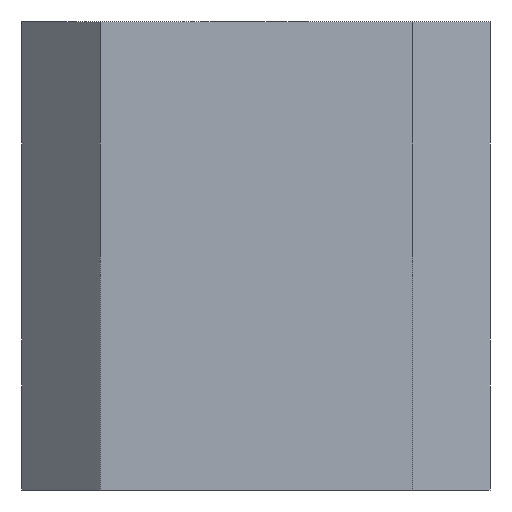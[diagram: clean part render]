
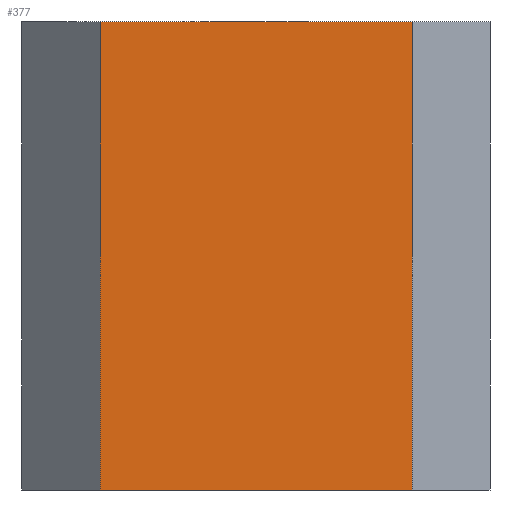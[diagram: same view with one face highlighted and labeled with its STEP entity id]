
A CAD part, front view. The second image highlights one B-rep face of the part: STEP entity #377.
In plain terms, the highlighted planar face has unit normal (0, -1, 0).
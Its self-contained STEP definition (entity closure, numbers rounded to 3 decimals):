
#24=PLANE('',#405);
#45=FACE_OUTER_BOUND('',#66,.T.);
#66=EDGE_LOOP('',(#300,#301,#302,#303));
#117=LINE('',#587,#157);
#119=LINE('',#591,#159);
#120=LINE('',#593,#160);
#121=LINE('',#594,#161);
#157=VECTOR('',#471,10.);
#159=VECTOR('',#475,10.);
#160=VECTOR('',#476,10.);
#161=VECTOR('',#477,10.);
#198=VERTEX_POINT('',#584);
#199=VERTEX_POINT('',#586);
#200=VERTEX_POINT('',#590);
#201=VERTEX_POINT('',#592);
#239=EDGE_CURVE('',#198,#199,#117,.T.);
#241=EDGE_CURVE('',#200,#198,#119,.T.);
#242=EDGE_CURVE('',#201,#200,#120,.T.);
#243=EDGE_CURVE('',#201,#199,#121,.T.);
#300=ORIENTED_EDGE('',*,*,#239,.F.);
#301=ORIENTED_EDGE('',*,*,#241,.F.);
#302=ORIENTED_EDGE('',*,*,#242,.F.);
#303=ORIENTED_EDGE('',*,*,#243,.T.);
#377=ADVANCED_FACE('',(#45),#24,.T.);
#405=AXIS2_PLACEMENT_3D('',#589,#473,#474);
#471=DIRECTION('',(0.,0.,-1.));
#473=DIRECTION('center_axis',(0.,-1.,0.));
#474=DIRECTION('ref_axis',(1.,0.,0.));
#475=DIRECTION('',(1.,0.,0.));
#476=DIRECTION('',(0.,0.,1.));
#477=DIRECTION('',(1.,0.,0.));
#584=CARTESIAN_POINT('',(-2.5,-36.,15.));
#586=CARTESIAN_POINT('',(-2.5,-36.,0.));
#587=CARTESIAN_POINT('',(-2.5,-36.,0.));
#589=CARTESIAN_POINT('Origin',(-15.,-36.,0.));
#590=CARTESIAN_POINT('',(-12.5,-36.,15.));
#591=CARTESIAN_POINT('',(-15.,-36.,15.));
#592=CARTESIAN_POINT('',(-12.5,-36.,0.));
#593=CARTESIAN_POINT('',(-12.5,-36.,0.));
#594=CARTESIAN_POINT('',(-15.,-36.,0.));
